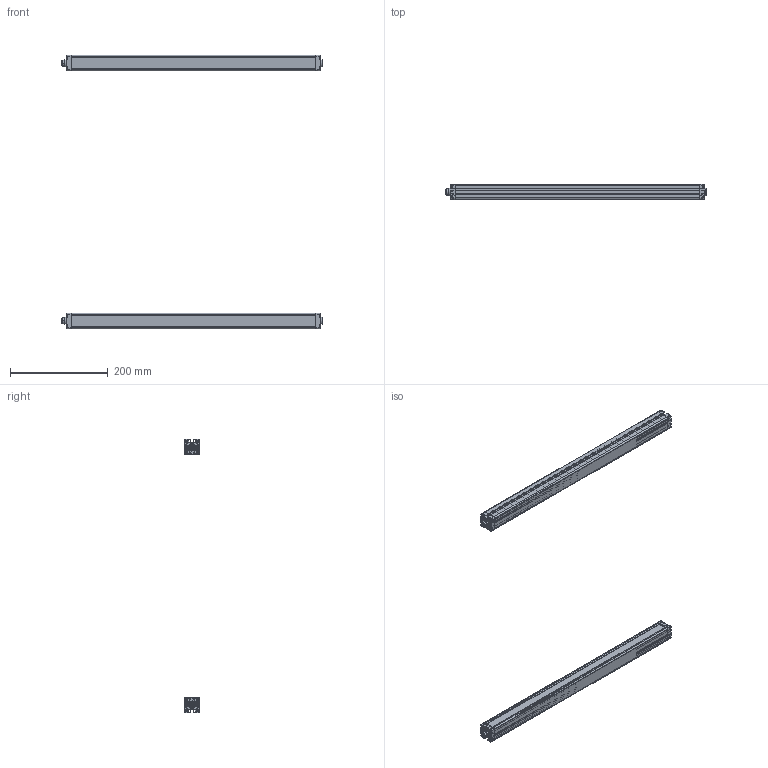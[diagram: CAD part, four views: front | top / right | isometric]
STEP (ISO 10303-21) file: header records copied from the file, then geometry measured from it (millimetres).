
FILE_DESCRIPTION((''),'2;1');
FILE_NAME('THW_ASM','2019-05-20T',('Administrator'),(''),'PRO/ENGINEER BY PARAMETRIC TECHNOLOGY CORPORATION, 2002180','PRO/ENGINEER BY PARAMETRIC TECHNOLOGY CORPORATION, 2002180','');
FILE_SCHEMA(('CONFIG_CONTROL_DESIGN'));
Length unit declared in the file: millimetre
Products named in the file (10): 11; 101; 102; 13; 12; 14; 16; ASM0002_ASM; 0000_ASM; THW_ASM
Assembly tree (10 placements, depth 4):
  THW_ASM
    0000_ASM  x2
      11
      101
      102
      13
      12
      ASM0002_ASM
        14
        16
Bounding box: 532 x 30.3 x 558.6 mm (x, y, z)
Volume: 319526.6 mm3; surface area: 359950.6 mm2
Topology: 10 solids, 14 shells, 1080 faces, 3010 edges, 1986 vertices
Faces by surface type: plane 764, cylinder 288, cone 28
Entity records: 17771 total; most frequent: CARTESIAN_POINT 3380, ORIENTED_EDGE 3006, DIRECTION 2885, EDGE_CURVE 1505, VECTOR 1177, LINE 1177, VERTEX_POINT 993, AXIS2_PLACEMENT_3D 854
